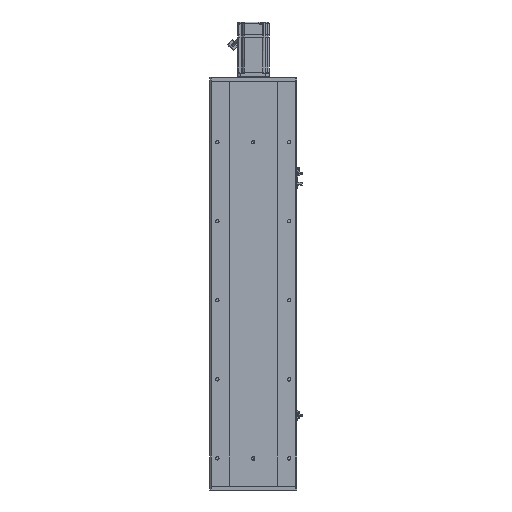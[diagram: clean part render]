
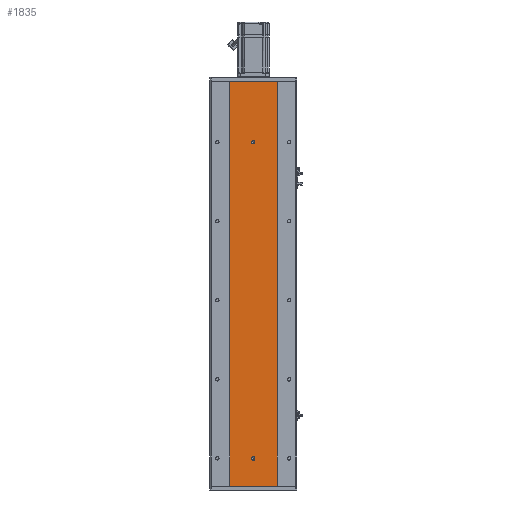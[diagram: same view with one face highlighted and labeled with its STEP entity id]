
A CAD part, front view. The second image highlights one B-rep face of the part: STEP entity #1835.
In plain terms, the highlighted planar face has unit normal (0, -1, 0).
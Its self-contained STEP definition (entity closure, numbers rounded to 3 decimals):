
#346 = EDGE_CURVE ( 'NONE', #65308, #5295, #41129, .T. ) ;
#802 = VERTEX_POINT ( 'NONE', #11962 ) ;
#1231 = CARTESIAN_POINT ( 'NONE',  ( -60., 0., 1024. ) ) ;
#1437 = VERTEX_POINT ( 'NONE', #66148 ) ;
#1835 = ADVANCED_FACE ( 'NONE', ( #39372, #16732, #25650 ), #3194, .F. ) ;
#1911 = LINE ( 'NONE', #66346, #26261 ) ;
#2134 = ORIENTED_EDGE ( 'NONE', *, *, #37239, .F. ) ;
#2551 = VERTEX_POINT ( 'NONE', #46899 ) ;
#2897 = LINE ( 'NONE', #65392, #48216 ) ;
#3076 = VECTOR ( 'NONE', #29168, 1000. ) ;
#3194 = PLANE ( 'NONE',  #45808 ) ;
#3541 = CARTESIAN_POINT ( 'NONE',  ( -60., 0., 1024. ) ) ;
#3839 = CARTESIAN_POINT ( 'NONE',  ( -60., 0., 1024. ) ) ;
#3903 = ORIENTED_EDGE ( 'NONE', *, *, #8229, .F. ) ;
#3954 = LINE ( 'NONE', #1231, #42037 ) ;
#5068 = CARTESIAN_POINT ( 'NONE',  ( 0., 0., 71.5 ) ) ;
#5295 = VERTEX_POINT ( 'NONE', #25155 ) ;
#8229 = EDGE_CURVE ( 'NONE', #21727, #2551, #48430, .T. ) ;
#9047 = DIRECTION ( 'NONE',  ( 0., 0., 1. ) ) ;
#9212 = VERTEX_POINT ( 'NONE', #31386 ) ;
#10065 = DIRECTION ( 'NONE',  ( 0., 0., -1. ) ) ;
#11015 = DIRECTION ( 'NONE',  ( 1., 0., 0. ) ) ;
#11699 = DIRECTION ( 'NONE',  ( 0., -1., 0. ) ) ;
#11962 = CARTESIAN_POINT ( 'NONE',  ( 4., 0., 71.5 ) ) ;
#12136 = CARTESIAN_POINT ( 'NONE',  ( 0., 0., 870. ) ) ;
#12680 = DIRECTION ( 'NONE',  ( 0., -1., 0. ) ) ;
#13522 = DIRECTION ( 'NONE',  ( 0., 0., -1. ) ) ;
#16732 = FACE_BOUND ( 'NONE', #60395, .T. ) ;
#17469 = ORIENTED_EDGE ( 'NONE', *, *, #41867, .F. ) ;
#19526 = DIRECTION ( 'NONE',  ( 0., 0., -1. ) ) ;
#19649 = DIRECTION ( 'NONE',  ( 0., 0., -1. ) ) ;
#20062 = ORIENTED_EDGE ( 'NONE', *, *, #23458, .F. ) ;
#20290 = ORIENTED_EDGE ( 'NONE', *, *, #40385, .F. ) ;
#20446 = CARTESIAN_POINT ( 'NONE',  ( 60., 0., 1024. ) ) ;
#20691 = LINE ( 'NONE', #34452, #37679 ) ;
#20862 = AXIS2_PLACEMENT_3D ( 'NONE', #60096, #44522, #13522 ) ;
#21727 = VERTEX_POINT ( 'NONE', #20446 ) ;
#23458 = EDGE_CURVE ( 'NONE', #52932, #9212, #37262, .T. ) ;
#24132 = ORIENTED_EDGE ( 'NONE', *, *, #45805, .T. ) ;
#24468 = DIRECTION ( 'NONE',  ( 0., 1., 0. ) ) ;
#24620 = CARTESIAN_POINT ( 'NONE',  ( 0., 0., 68.5 ) ) ;
#24623 = ORIENTED_EDGE ( 'NONE', *, *, #64539, .F. ) ;
#25155 = CARTESIAN_POINT ( 'NONE',  ( -60., 0., 0. ) ) ;
#25650 = FACE_OUTER_BOUND ( 'NONE', #51836, .T. ) ;
#25837 = ORIENTED_EDGE ( 'NONE', *, *, #46898, .F. ) ;
#25872 = VERTEX_POINT ( 'NONE', #31081 ) ;
#26261 = VECTOR ( 'NONE', #19526, 1000. ) ;
#26268 = CARTESIAN_POINT ( 'NONE',  ( 0., 0., 64.5 ) ) ;
#29168 = DIRECTION ( 'NONE',  ( 0., 0., -1. ) ) ;
#29479 = DIRECTION ( 'NONE',  ( 0., 0., 1. ) ) ;
#30670 = DIRECTION ( 'NONE',  ( 0., -1., 0. ) ) ;
#30998 = EDGE_LOOP ( 'NONE', ( #17469, #20062 ) ) ;
#31074 = ORIENTED_EDGE ( 'NONE', *, *, #346, .T. ) ;
#31081 = CARTESIAN_POINT ( 'NONE',  ( 4., 0., 68.5 ) ) ;
#31386 = CARTESIAN_POINT ( 'NONE',  ( 0., 0., 866. ) ) ;
#32489 = CIRCLE ( 'NONE', #63803, 4. ) ;
#34159 = VERTEX_POINT ( 'NONE', #26268 ) ;
#34452 = CARTESIAN_POINT ( 'NONE',  ( 4., 0., 71.5 ) ) ;
#37239 = EDGE_CURVE ( 'NONE', #34159, #25872, #41860, .T. ) ;
#37262 = CIRCLE ( 'NONE', #60500, 4. ) ;
#37679 = VECTOR ( 'NONE', #29479, 1000. ) ;
#38532 = AXIS2_PLACEMENT_3D ( 'NONE', #5068, #30670, #10065 ) ;
#38896 = DIRECTION ( 'NONE',  ( 0., 0., -1. ) ) ;
#39372 = FACE_BOUND ( 'NONE', #30998, .T. ) ;
#40385 = EDGE_CURVE ( 'NONE', #1437, #34159, #58837, .T. ) ;
#41129 = LINE ( 'NONE', #3541, #3076 ) ;
#41860 = CIRCLE ( 'NONE', #20862, 4. ) ;
#41867 = EDGE_CURVE ( 'NONE', #9212, #52932, #32489, .T. ) ;
#42037 = VECTOR ( 'NONE', #53234, 1000. ) ;
#43900 = CARTESIAN_POINT ( 'NONE',  ( 0., 0., 870. ) ) ;
#44522 = DIRECTION ( 'NONE',  ( 0., -1., 0. ) ) ;
#45634 = DIRECTION ( 'NONE',  ( 0., -1., 0. ) ) ;
#45805 = EDGE_CURVE ( 'NONE', #5295, #2551, #2897, .T. ) ;
#45808 = AXIS2_PLACEMENT_3D ( 'NONE', #3839, #24468, #9047 ) ;
#46898 = EDGE_CURVE ( 'NONE', #64888, #1437, #1911, .T. ) ;
#46899 = CARTESIAN_POINT ( 'NONE',  ( 60., 0., 0. ) ) ;
#48216 = VECTOR ( 'NONE', #11015, 1000. ) ;
#48430 = LINE ( 'NONE', #64677, #50017 ) ;
#48693 = ORIENTED_EDGE ( 'NONE', *, *, #49532, .F. ) ;
#48873 = DIRECTION ( 'NONE',  ( 0., 0., -1. ) ) ;
#49532 = EDGE_CURVE ( 'NONE', #802, #64888, #64213, .T. ) ;
#50017 = VECTOR ( 'NONE', #38896, 1000. ) ;
#50396 = CARTESIAN_POINT ( 'NONE',  ( -4., 0., 71.5 ) ) ;
#51836 = EDGE_LOOP ( 'NONE', ( #24132, #3903, #65065, #31074 ) ) ;
#52932 = VERTEX_POINT ( 'NONE', #56685 ) ;
#53100 = EDGE_CURVE ( 'NONE', #65308, #21727, #3954, .T. ) ;
#53234 = DIRECTION ( 'NONE',  ( 1., 0., 0. ) ) ;
#55026 = AXIS2_PLACEMENT_3D ( 'NONE', #24620, #45634, #19649 ) ;
#56685 = CARTESIAN_POINT ( 'NONE',  ( 0., 0., 874. ) ) ;
#58285 = CARTESIAN_POINT ( 'NONE',  ( -60., 0., 1024. ) ) ;
#58837 = CIRCLE ( 'NONE', #55026, 4. ) ;
#60096 = CARTESIAN_POINT ( 'NONE',  ( 0., 0., 68.5 ) ) ;
#60395 = EDGE_LOOP ( 'NONE', ( #25837, #48693, #24623, #2134, #20290 ) ) ;
#60500 = AXIS2_PLACEMENT_3D ( 'NONE', #43900, #12680, #48873 ) ;
#63803 = AXIS2_PLACEMENT_3D ( 'NONE', #12136, #11699, #63940 ) ;
#63940 = DIRECTION ( 'NONE',  ( 0., 0., -1. ) ) ;
#64213 = CIRCLE ( 'NONE', #38532, 4. ) ;
#64539 = EDGE_CURVE ( 'NONE', #25872, #802, #20691, .T. ) ;
#64677 = CARTESIAN_POINT ( 'NONE',  ( 60., 0., 1024. ) ) ;
#64888 = VERTEX_POINT ( 'NONE', #50396 ) ;
#65065 = ORIENTED_EDGE ( 'NONE', *, *, #53100, .F. ) ;
#65308 = VERTEX_POINT ( 'NONE', #58285 ) ;
#65392 = CARTESIAN_POINT ( 'NONE',  ( -60., 0., 0. ) ) ;
#66148 = CARTESIAN_POINT ( 'NONE',  ( -4., 0., 68.5 ) ) ;
#66346 = CARTESIAN_POINT ( 'NONE',  ( -4., 0., 71.5 ) ) ;
